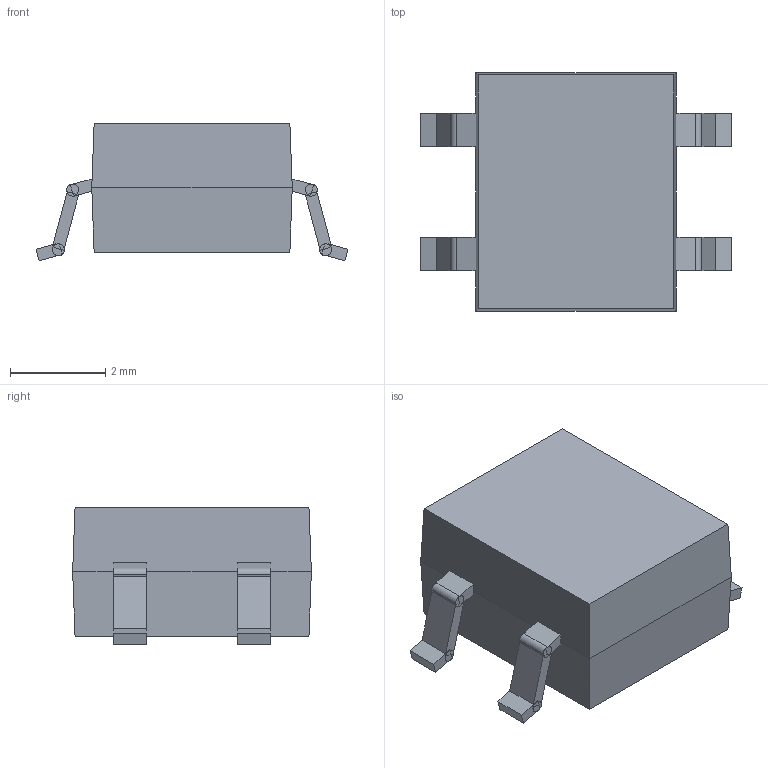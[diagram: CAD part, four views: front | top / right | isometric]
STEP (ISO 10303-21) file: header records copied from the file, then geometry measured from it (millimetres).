
FILE_DESCRIPTION(('FreeCAD Model'),'2;1');
FILE_NAME('Open CASCADE Shape Model','2023-12-05T23:57:06',('Author'),( ''),'Open CASCADE STEP processor 7.6','FreeCAD','Unknown');
FILE_SCHEMA(('AUTOMOTIVE_DESIGN { 1 0 10303 214 1 1 1 1 }'));
Length unit declared in the file: millimetre
Products named in the file (1): Group
Bounding box: 6.54 x 5 x 2.88 mm (x, y, z)
Volume: 57 mm3; surface area: 105.5 mm2
Topology: 1 solids, 1 shells, 182 faces, 424 edges, 244 vertices
Faces by surface type: plane 166, cylinder 16
Entity records: 11986 total; most frequent: CARTESIAN_POINT 2259, DIRECTION 1574, LINE 936, VECTOR 936, ORIENTED_EDGE 848, PCURVE 848, DEFINITIONAL_REPRESENTATION 848, EDGE_CURVE 424
